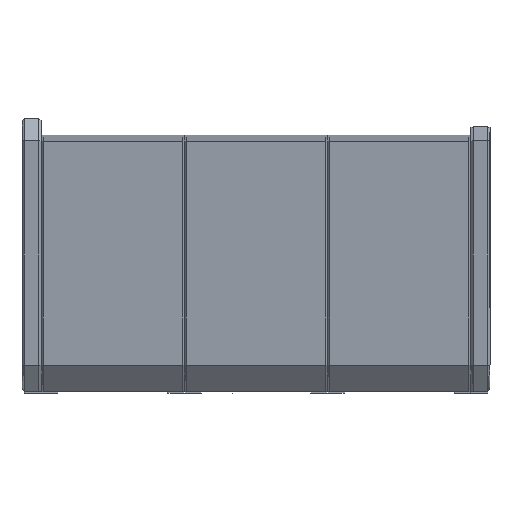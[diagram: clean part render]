
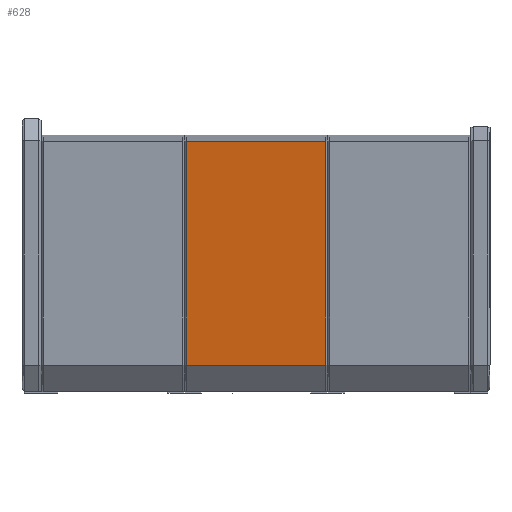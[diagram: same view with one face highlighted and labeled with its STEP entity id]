
A CAD part, left-side view. The second image highlights one B-rep face of the part: STEP entity #628.
In plain terms, the highlighted planar face has unit normal (-0.991, 0, -0.131).
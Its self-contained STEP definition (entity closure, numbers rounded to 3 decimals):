
#147=B_SPLINE_CURVE_WITH_KNOTS('',1,(#15362,#15363),.UNSPECIFIED.,.F.,.F.,
(2,2),(0.,730.),.UNSPECIFIED.);
#628=ADVANCED_FACE('',(#1402),#10702,.T.);
#1402=FACE_OUTER_BOUND('',#2176,.T.);
#2176=EDGE_LOOP('',(#3692,#3693,#3694,#3695));
#3692=ORIENTED_EDGE('',*,*,#6666,.T.);
#3693=ORIENTED_EDGE('',*,*,#6683,.T.);
#3694=ORIENTED_EDGE('',*,*,#6645,.F.);
#3695=ORIENTED_EDGE('',*,*,#6685,.F.);
#6645=EDGE_CURVE('',#9847,#9849,#8424,.T.);
#6666=EDGE_CURVE('',#9862,#9864,#8438,.T.);
#6683=EDGE_CURVE('',#9864,#9849,#147,.T.);
#6685=EDGE_CURVE('',#9862,#9847,#8449,.T.);
#8424=(
BOUNDED_CURVE()
B_SPLINE_CURVE(1,(#15124,#15125),.UNSPECIFIED.,.F.,.F.)
B_SPLINE_CURVE_WITH_KNOTS((2,2),(0.,1182.161),.UNSPECIFIED.)
CURVE()
GEOMETRIC_REPRESENTATION_ITEM()
RATIONAL_B_SPLINE_CURVE((1.,1.))
REPRESENTATION_ITEM('')
);
#8438=(
BOUNDED_CURVE()
B_SPLINE_CURVE(1,(#15262,#15263),.UNSPECIFIED.,.F.,.F.)
B_SPLINE_CURVE_WITH_KNOTS((2,2),(0.,1182.161),.UNSPECIFIED.)
CURVE()
GEOMETRIC_REPRESENTATION_ITEM()
RATIONAL_B_SPLINE_CURVE((1.,1.))
REPRESENTATION_ITEM('')
);
#8449=(
BOUNDED_CURVE()
B_SPLINE_CURVE(1,(#15367,#15368),.UNSPECIFIED.,.F.,.F.)
B_SPLINE_CURVE_WITH_KNOTS((2,2),(0.,730.),.UNSPECIFIED.)
CURVE()
GEOMETRIC_REPRESENTATION_ITEM()
RATIONAL_B_SPLINE_CURVE((1.,1.))
REPRESENTATION_ITEM('')
);
#9847=VERTEX_POINT('',#14793);
#9849=VERTEX_POINT('',#14795);
#9862=VERTEX_POINT('',#14808);
#9864=VERTEX_POINT('',#14810);
#10702=PLANE('',#11498);
#11498=AXIS2_PLACEMENT_3D('',#14756,#11638,$);
#11638=DIRECTION('',(-0.991,0.,-0.131));
#14756=CARTESIAN_POINT('',(-1514.737,365.,1319.839));
#14793=CARTESIAN_POINT('',(-1514.737,-365.,1319.839));
#14795=CARTESIAN_POINT('',(-1359.412,-365.,147.926));
#14808=CARTESIAN_POINT('',(-1514.737,365.,1319.839));
#14810=CARTESIAN_POINT('',(-1359.412,365.,147.926));
#15124=CARTESIAN_POINT('',(-1514.737,-365.,1319.839));
#15125=CARTESIAN_POINT('',(-1359.412,-365.,147.926));
#15262=CARTESIAN_POINT('',(-1514.737,365.,1319.839));
#15263=CARTESIAN_POINT('',(-1359.412,365.,147.926));
#15362=CARTESIAN_POINT('',(-1359.412,365.,147.926));
#15363=CARTESIAN_POINT('',(-1359.412,-365.,147.926));
#15367=CARTESIAN_POINT('',(-1514.737,365.,1319.839));
#15368=CARTESIAN_POINT('',(-1514.737,-365.,1319.839));
